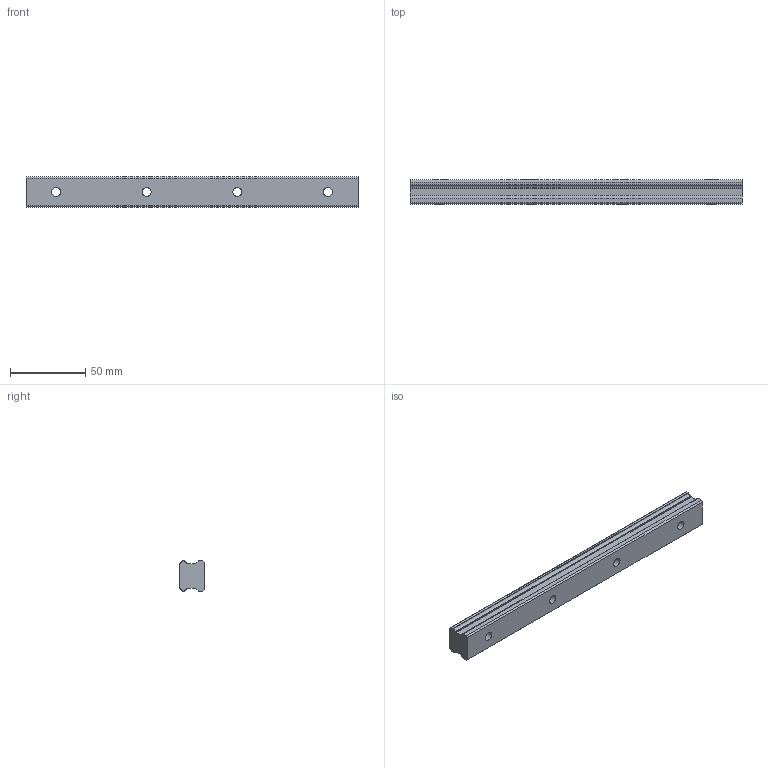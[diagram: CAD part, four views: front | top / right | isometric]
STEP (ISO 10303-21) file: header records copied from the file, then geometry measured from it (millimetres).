
FILE_DESCRIPTION(/* description */ ('STEP AP203'),/* implementation_level */ '2;1');
FILE_NAME(/* name */ 'SHS20-220L(GK) RAIL(20)',/* time_stamp */ '2024-05-14T03:41:40+02:00',/* author */ ('License CC BY-ND 4.0'),/* organization */ ('CADENAS'),/* preprocessor_version */ 'ST-DEVELOPER v19.3',/* originating_system */ 'PARTsolutions',/* authorisation */ ' ');
FILE_SCHEMA (('CONFIG_CONTROL_DESIGN'));
Length unit declared in the file: millimetre
Products named in the file (1): SHS20-220L(GK) RAIL(20)
Bounding box: 220 x 16.5 x 20 mm (x, y, z)
Volume: 61784.5 mm3; surface area: 18157 mm2
Topology: 1 solids, 1 shells, 46 faces, 120 edges, 80 vertices
Faces by surface type: cylinder 26, plane 20
Full cylindrical faces by diameter (mm): 6 x4, 9.5 x4
Entity records: 1442 total; most frequent: DIRECTION 258, CARTESIAN_POINT 239, ORIENTED_EDGE 224, EDGE_CURVE 112, AXIS2_PLACEMENT_3D 99, VERTEX_POINT 80, EDGE_LOOP 66, FACE_BOUND 66
